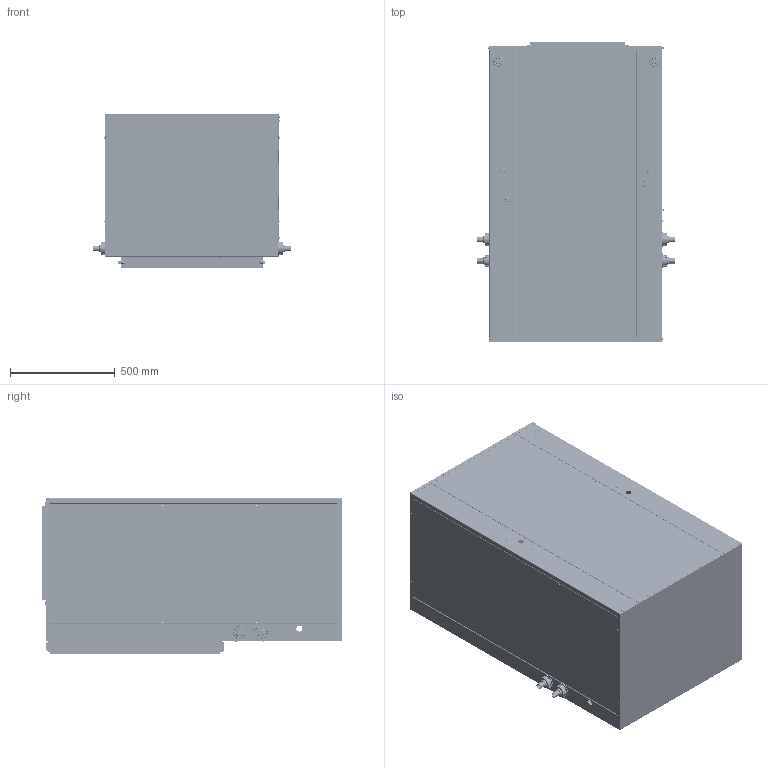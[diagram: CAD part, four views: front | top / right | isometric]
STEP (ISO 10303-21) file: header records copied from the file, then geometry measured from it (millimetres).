
FILE_DESCRIPTION (( 'STEP AP214' ), '1' );
FILE_NAME ('GV71S2.STEP', '2016-07-14T14:05:45', ( 'BMC' ), ( 'Bard Manufacturing Co., Inc.' ), 'SwSTEP 2.0', 'SolidWorks 2016', '' );
FILE_SCHEMA (( 'AUTOMOTIVE_DESIGN' ));
Length unit declared in the file: inch
Products named in the file (42): 106-334; swell latch rubber washer; 104-1161; swell latch nut; 126-335; swell latch threaded shaft; 100-530; swell latch handle; 152-464; 130-159; 122-120; 130-158_ISO; 120-437; 130-161_ISO; 148-110; 136-566; Fitting assembly; 148-111; 140-262; Cap; 108-219; 1012-086; Plug; end; Retaining Nut; GV71S2; side without hole; copper adapter; middle; water fitting; side with hole; plastic trim; 5021-1409_bent view; 100-530_2; 116-228; 164-591; 152-465; filter rack large; 144-186; 1171-053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
Assembly tree (99 placements, depth 4):
  GV71S2
    108-219
    148-111
    148-110
    120-437
    122-120
    152-464
    100-530
    126-335
    104-1161  x4
    106-334
    140-305  x2
    144-186  x2
    152-465
    116-228
    5021-1409_bent view
    side with hole
    middle
    side without hole
    end  x2
    1012-086  x46
    140-262  x2
    136-566  x2
    filter rack large  x2
      130-161_ISO
      130-158_ISO
      130-159
      1171-053
        swell latch handle
        swell latch threaded shaft
        swell latch nut
        swell latch rubber washer
        swell latch pin
    164-591
    100-530_2
    Fitting assembly  x4
      plastic trim
      water fitting
      copper adapter
      Retaining Nut
      Plug
      Cap
Bounding box: 945.5 x 1435.1 x 747.71 mm (x, y, z)
Surface area: 16180118.3 mm2 (no closed solid volume)
Topology: 0 solids, 127 shells, 5870 faces, 14781 edges, 9336 vertices
Faces by surface type: plane 2384, cylinder 1890, bspline 1076, cone 520
Entity records: 141187 total; most frequent: CARTESIAN_POINT 40641, ORIENTED_EDGE 14710, DIRECTION 13683, EDGE_CURVE 7355, AXIS2_PLACEMENT_3D 5022, VERTEX_POINT 4708, LINE 3639, VECTOR 3639
